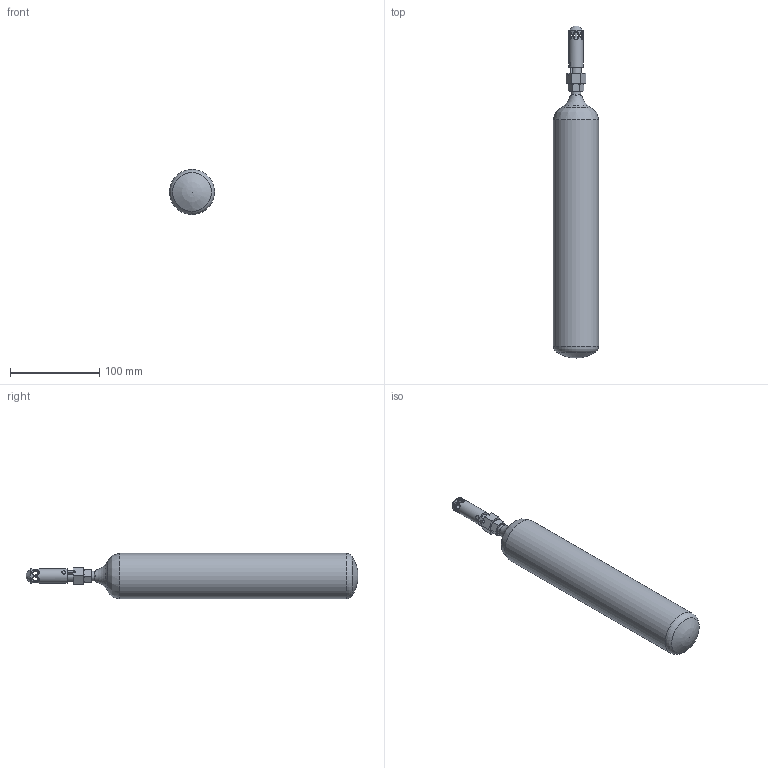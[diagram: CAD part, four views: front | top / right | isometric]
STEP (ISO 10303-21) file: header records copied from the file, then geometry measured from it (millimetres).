
FILE_DESCRIPTION(/* description */ (''),/* implementation_level */ '2;1');
FILE_NAME(/* name */ '40-056-20-68182-14 - AMFE - cylinder size 4.stp',/* time_stamp */ '2025-03-26T16:31:04+01:00',/* author */ ('ASc'),/* organization */ (''),/* preprocessor_version */ 'ST-DEVELOPER v19.2',/* originating_system */ 'Autodesk Inventor 2023',/* authorisation */ '');
FILE_SCHEMA (('AUTOMOTIVE_DESIGN { 1 0 10303 214 3 1 1 }'));
Length unit declared in the file: millimetre
Products named in the file (1): 40-056-20-68182-14_Vereinfachen_1
Bounding box: 50.8 x 372.4 x 50.8 mm (x, y, z)
Volume: 573270.2 mm3; surface area: 52625.1 mm2
Topology: 1 solids, 1 shells, 79 faces, 244 edges, 162 vertices
Faces by surface type: plane 29, cone 25, cylinder 17, torus 4, bspline 2, sphere 2
Full cylindrical faces by diameter (mm): 2.9 x1, 3 x1, 6.5 x6, 11 x1, 12 x1, 12.5 x1, 15 x1, 16 x1, 50.8 x1
Entity records: 3407 total; most frequent: CARTESIAN_POINT 1104, ORIENTED_EDGE 480, DIRECTION 425, EDGE_CURVE 240, AXIS2_PLACEMENT_3D 170, VERTEX_POINT 162, EDGE_LOOP 96, LINE 85
